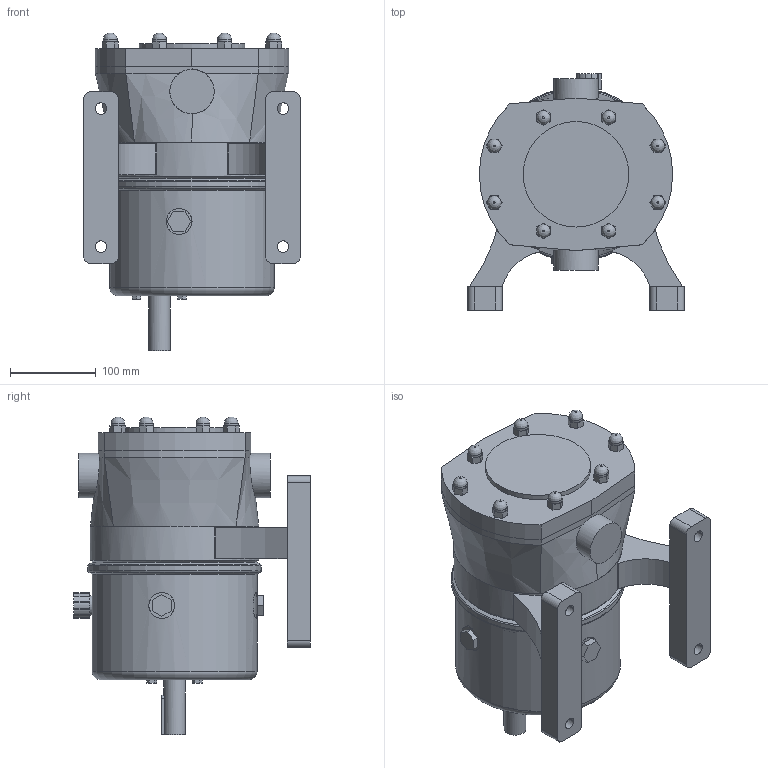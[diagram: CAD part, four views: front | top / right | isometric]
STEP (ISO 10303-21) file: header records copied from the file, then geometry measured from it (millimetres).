
FILE_DESCRIPTION((''),'2;1');
FILE_NAME('T:\_Engineering\Read Only\Studenci\Maciej\DW pumps\STEP\DW3_050_5_shaft_left.stp','2013-06-10T11:19:37',('pszymczyk'),(''),'Autodesk Inventor 2012','Autodesk Inventor 2012','');
FILE_SCHEMA(('CONFIG_CONTROL_DESIGN'));
Length unit declared in the file: millimetre
Products named in the file (1): DW_iparts
Bounding box: 252 x 275.5 x 369.65 mm (x, y, z)
Volume: 6132703 mm3; surface area: 528924 mm2
Topology: 1 solids, 3 shells, 313 faces, 761 edges, 479 vertices
Faces by surface type: plane 219, cylinder 69, bspline 12, cone 9, torus 4
Full cylindrical faces by diameter (mm): 16 x8, 23 x1, 25 x1, 30 x4, 51.6 x2, 90 x1, 110 x1, 122.8 x1, 189 x2, 192 x2, 196 x2, 202 x1
Entity records: 9544 total; most frequent: CARTESIAN_POINT 2199, DIRECTION 1511, ORIENTED_EDGE 1424, EDGE_CURVE 712, AXIS2_PLACEMENT_3D 506, VECTOR 499, LINE 499, VERTEX_POINT 472
